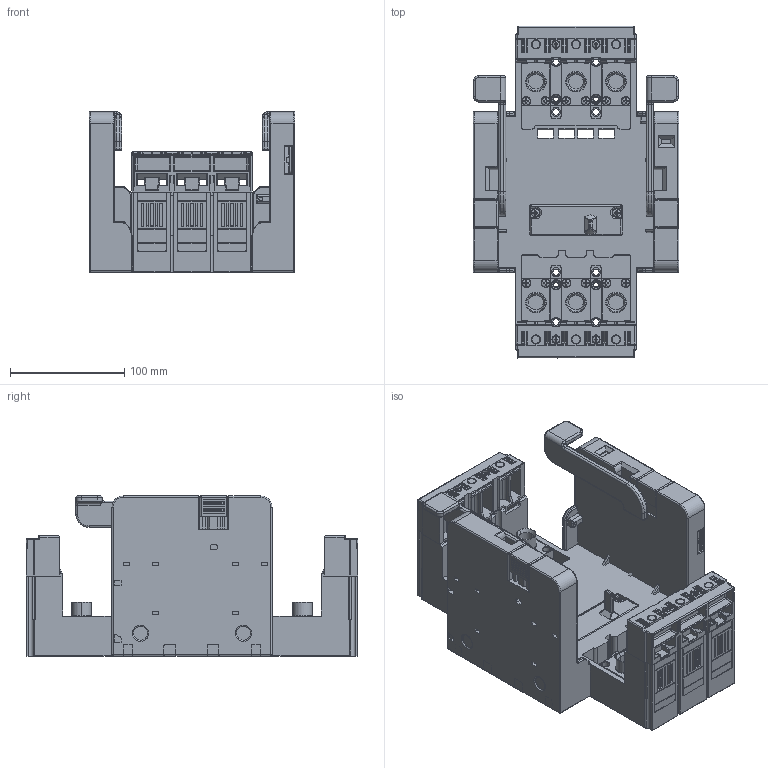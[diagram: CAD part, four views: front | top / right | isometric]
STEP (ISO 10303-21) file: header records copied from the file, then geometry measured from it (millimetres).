
FILE_DESCRIPTION (( 'STEP AP214' ), '1' );
FILE_NAME ('ZV-BD-0250-300_zj_02.step', '2013-08-21T11:49:17', ( '' ), ( '' ), 'SwSTEP 2.0', 'SolidWorks 2011', '' );
FILE_SCHEMA (( 'AUTOMOTIVE_DESIGN' ));
Length unit declared in the file: millimetre
Products named in the file (1): ZV-BD-0250-300_zj_02
Bounding box: 180 x 290 x 140 mm (x, y, z)
Volume: 2018635.9 mm3; surface area: 479608.9 mm2
Topology: 9 solids, 10 shells, 5692 faces, 15193 edges, 9528 vertices
Faces by surface type: plane 3277, cylinder 1816, sphere 193, bspline 165, torus 128, cone 113
Entity records: 244867 total; most frequent: CARTESIAN_POINT 41837, ORIENTED_EDGE 29916, DIRECTION 28653, EDGE_CURVE 14958, VECTOR 10235, LINE 10235, VERTEX_POINT 9528, AXIS2_PLACEMENT_3D 9209
